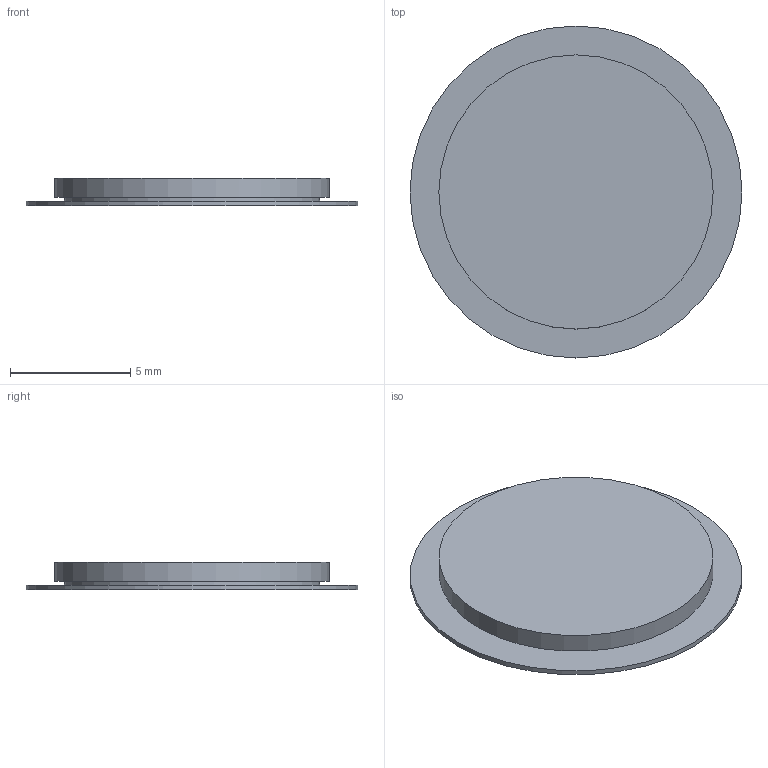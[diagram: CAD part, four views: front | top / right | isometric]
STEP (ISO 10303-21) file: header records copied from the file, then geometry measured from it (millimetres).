
FILE_DESCRIPTION(('FreeCAD Model'),'2;1');
FILE_NAME('Open CASCADE Shape Model','2026-09-22T00:47:39',('FreeCAD'),( 'FreeCAD'),'Open CASCADE STEP processor 7.8','FreeCAD','Unknown');
FILE_SCHEMA(('AUTOMOTIVE_DESIGN { 1 0 10303 214 1 1 1 1 }'));
Length unit declared in the file: millimetre
Products named in the file (1): Open CASCADE STEP translator 7.8 4
Bounding box: 13.8 x 13.8 x 1.15 mm (x, y, z)
Volume: 113.8 mm3; surface area: 376.5 mm2
Topology: 1 solids, 1 shells, 11 faces, 15 edges, 10 vertices
Faces by surface type: plane 6, cylinder 5
Full cylindrical faces by diameter (mm): 2.4 x1, 6.4 x1, 10.6 x1, 11.4 x1, 13.8 x1
Entity records: 248 total; most frequent: DIRECTION 48, CARTESIAN_POINT 38, ORIENTED_EDGE 30, AXIS2_PLACEMENT_3D 22, FACE_BOUND 15, EDGE_LOOP 15, EDGE_CURVE 15, ADVANCED_FACE 11
